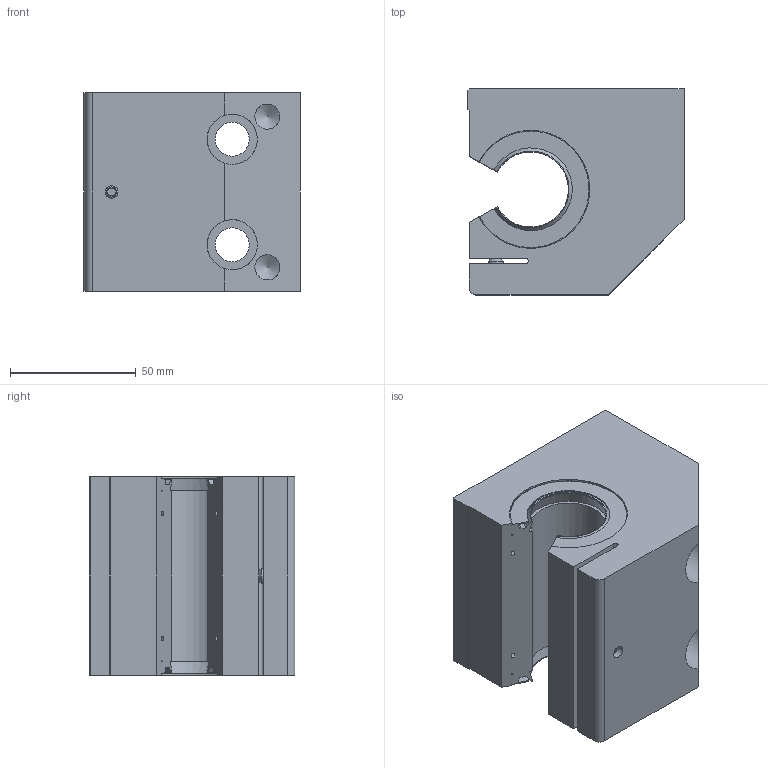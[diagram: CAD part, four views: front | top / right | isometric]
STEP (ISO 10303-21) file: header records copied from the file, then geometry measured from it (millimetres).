
FILE_DESCRIPTION(('STEP AP203'),'1');
FILE_NAME('//192.168.1.1/share/s-4 技術開発/s-4-4_CAD/s-4-4-3_見直し済み/008 修正済み/SLS-OPY/SLS-OPY_TOP/SLS-30-OPY.step','2022-03-10T07:32:25',(' '),(' '),'Spatial InterOp 3D',' ',' ');
FILE_SCHEMA(('CONFIG_CONTROL_DESIGN'));
Length unit declared in the file: millimetre
Products named in the file (1): 1
Bounding box: 86 x 82 x 79 mm (x, y, z)
Volume: 405468.8 mm3; surface area: 58722.5 mm2
Topology: 1 solids, 3 shells, 94 faces, 260 edges, 174 vertices
Faces by surface type: plane 44, cylinder 31, cone 11, torus 8
Full cylindrical faces by diameter (mm): 3 x1, 3.5 x1, 5 x1, 6 x1, 7 x2, 10 x2, 13.5 x4, 20 x2
Entity records: 3023 total; most frequent: CARTESIAN_POINT 701, DIRECTION 461, ORIENTED_EDGE 452, EDGE_CURVE 226, AXIS2_PLACEMENT_3D 170, VERTEX_POINT 162, EDGE_LOOP 129, LINE 121
